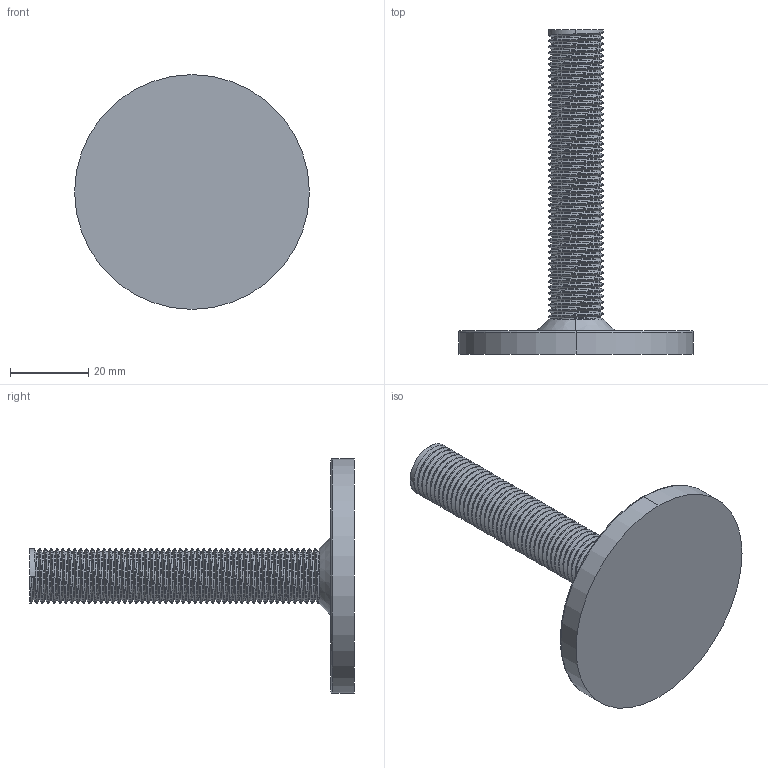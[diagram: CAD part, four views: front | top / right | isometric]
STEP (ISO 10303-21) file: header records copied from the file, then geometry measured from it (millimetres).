
FILE_DESCRIPTION (( 'STEP AP214' ), '1' );
FILE_NAME ('Kirineos-antivibration-mount-SS304.STEP', '2025-10-02T12:50:18', ( '' ), ( '' ), 'SwSTEP 2.0', 'SolidWorks 2025', '' );
FILE_SCHEMA (( 'AUTOMOTIVE_DESIGN' ));
Length unit declared in the file: millimetre
Products named in the file (1): Kirineos-antivibration-mount-SS304
Bounding box: 60 x 83 x 60 mm (x, y, z)
Volume: 27558.7 mm3; surface area: 13040.2 mm2
Topology: 3 solids, 3 shells, 128 faces, 360 edges, 238 vertices
Faces by surface type: cylinder 114, plane 7, bspline 3, torus 2, cone 2
Entity records: 10308 total; most frequent: CARTESIAN_POINT 7598, ORIENTED_EDGE 720, DIRECTION 415, EDGE_CURVE 360, VERTEX_POINT 238, AXIS2_PLACEMENT_3D 148, EDGE_LOOP 130, ADVANCED_FACE 128
